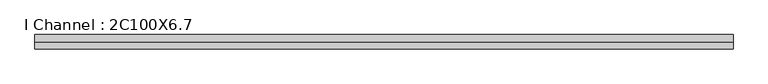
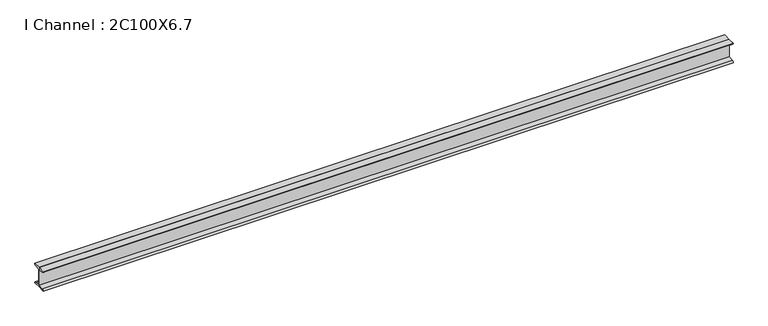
"""IFC4 building model written with IfcOpenShell, lengths in millimetres: beam geometry, I Channel : 2C100X6.7."""

import ifcopenshell
import ifcopenshell.guid

model = None  # the IFC model being written
_history = None  # IfcOwnerHistory: only IFC2X3 demands one
_inside = {}  # id of a spatial element -> (the spatial element, [elements in it])
_under = {}  # id of a project, library or spatial element -> (it, [spatial elements below it])
_declared = {}  # id of a project -> (the project, [libraries it declares])
_typed = {}  # id of a type object -> (the type object, [elements of that type])
_made_of = {}  # id of a material, layer set ... -> (it, [elements and type objects made of it])


def new_model(schema):
    """Start an empty IFC model of exactly this schema.

    Asked for "IFC4X3", IfcOpenShell would pick the latest addendum, in which some entities
    have other attributes; the version numbers below select the first issue.
    IFC2X3 requires an IfcOwnerHistory on every rooted entity: one is made here for all.
    """
    global model, _history
    if schema == "IFC4X3":
        model = ifcopenshell.file(schema_version=(4, 3, 0, 0))
    else:
        model = ifcopenshell.file(schema=schema)
    _inside.clear()
    _under.clear()
    _declared.clear()
    _typed.clear()
    _made_of.clear()
    _history = None
    if model.schema == "IFC2X3":
        org = make("IfcOrganization", Name="unknown")
        user = make(
            "IfcPersonAndOrganization",
            ThePerson=make("IfcPerson", FamilyName="unknown"),
            TheOrganization=org,
        )
        app = make(
            "IfcApplication",
            ApplicationDeveloper=org,
            Version="unknown",
            ApplicationFullName="unknown",
            ApplicationIdentifier="unknown",
        )
        _history = make(
            "IfcOwnerHistory",
            OwningUser=user,
            OwningApplication=app,
            ChangeAction="ADDED",
            CreationDate=0,
        )
    return model


def make(cls, **values):
    """One entity of the class cls with the attributes given. An attribute that is None is left unset."""
    return model.create_entity(
        cls, **{name: value for name, value in values.items() if value is not None}
    )


def rooted(cls, **values):
    """An entity with a GlobalId (a new one), such as an element, a storey or a relation."""
    return make(cls, GlobalId=ifcopenshell.guid.new(), OwnerHistory=_history, **values)


def si_unit(unit_type, name, prefix=None):
    """IfcSIUnit, for example si_unit("LENGTHUNIT", "METRE", prefix="MILLI")."""
    return make("IfcSIUnit", UnitType=unit_type, Prefix=prefix, Name=name)


def assignment(units):
    """IfcUnitAssignment: the units of a project."""
    return None if units is None else make("IfcUnitAssignment", Units=units)


def point(xyz):
    """IfcCartesianPoint."""
    return None if xyz is None else make("IfcCartesianPoint", Coordinates=xyz)


def direction(xyz):
    """IfcDirection."""
    return None if xyz is None else make("IfcDirection", DirectionRatios=xyz)


def frame(location, z_axis=None, x_axis=None):
    """IfcAxis2Placement3D, a coordinate frame: its origin and axes. An axis left out is left unset."""
    return make(
        "IfcAxis2Placement3D",
        Location=point(location),
        Axis=direction(z_axis),
        RefDirection=direction(x_axis),
    )


def frame_2d(location, x_axis=None):
    """IfcAxis2Placement2D, a coordinate frame in the plane: its origin and x axis."""
    return make(
        "IfcAxis2Placement2D", Location=point(location), RefDirection=direction(x_axis)
    )


def origin():
    """The frame at (0, 0, 0) with its axes left unset."""
    return frame((0.0, 0.0, 0.0))


def place(relative_to, where):
    """IfcLocalPlacement: puts the frame where relative to a parent placement (None: the world)."""
    return make(
        "IfcLocalPlacement", PlacementRelTo=relative_to, RelativePlacement=where
    )


def context(
    kind, dimensions, precision=None, world=None, true_north=None, identifier=None
):
    """IfcGeometricRepresentationContext, for example the 3D "Model" context."""
    return make(
        "IfcGeometricRepresentationContext",
        ContextIdentifier=identifier,
        ContextType=kind,
        CoordinateSpaceDimension=dimensions,
        Precision=precision,
        WorldCoordinateSystem=world,
        TrueNorth=true_north,
    )


def project(units=None, contexts=None):
    """IfcProject with its units and contexts."""
    return rooted(
        "IfcProject",
        Name="project",
        RepresentationContexts=contexts,
        UnitsInContext=assignment(units),
    )


def spatial(cls, under=None, at=None, **own):
    """A site, building, storey or space (cls), placed at a placement, below another one or the project."""
    s = rooted(cls, ObjectPlacement=at, **own)
    if under is not None:
        _under.setdefault(under.id(), (under, []))[1].append(s)
    return s


def polyline(points):
    """IfcPolyline through the points."""
    return make("IfcPolyline", Points=[point(p) for p in points])


def circle_curve(where, radius):
    """IfcCircle in the frame where."""
    return make("IfcCircle", Position=where, Radius=radius)


def trimmed(basis, trim1, trim2, sense, master):
    """IfcTrimmedCurve: the piece of a basis curve between two trims."""
    return make(
        "IfcTrimmedCurve",
        BasisCurve=basis,
        Trim1=trim1,
        Trim2=trim2,
        SenseAgreement=sense,
        MasterRepresentation=master,
    )


def segment(curve, same_sense, transition):
    """IfcCompositeCurveSegment."""
    return make(
        "IfcCompositeCurveSegment",
        Transition=transition,
        SameSense=same_sense,
        ParentCurve=curve,
    )


def composite_curve(segments, self_intersect=None):
    """IfcCompositeCurve: segments joined end to end."""
    return make("IfcCompositeCurve", Segments=segments, SelfIntersect=self_intersect)


def outline(outer, holes=None, kind="AREA"):
    """IfcArbitraryClosedProfileDef: a profile drawn as a closed curve; with holes, ...WithVoids."""
    if holes is None:
        return make("IfcArbitraryClosedProfileDef", ProfileType=kind, OuterCurve=outer)
    return make(
        "IfcArbitraryProfileDefWithVoids",
        ProfileType=kind,
        OuterCurve=outer,
        InnerCurves=holes,
    )


def extrude(swept, where, along, depth):
    """IfcExtrudedAreaSolid: the profile swept, set in the frame where, extruded along a direction by depth."""
    return make(
        "IfcExtrudedAreaSolid",
        SweptArea=swept,
        Position=where,
        ExtrudedDirection=direction(along),
        Depth=depth,
    )


def shape(context_of_items, identifier, shape_type, items):
    """IfcShapeRepresentation: the items that make up one representation, for example the "Body"."""
    return make(
        "IfcShapeRepresentation",
        ContextOfItems=context_of_items,
        RepresentationIdentifier=identifier,
        RepresentationType=shape_type,
        Items=items,
    )


def source(mapping_origin, context_of_items, identifier, shape_type, items):
    """IfcRepresentationMap: a shape defined once, which mapped items show again and again."""
    return make(
        "IfcRepresentationMap",
        MappingOrigin=mapping_origin,
        MappedRepresentation=shape(context_of_items, identifier, shape_type, items),
    )


def transform(
    local_origin,
    x_axis=None,
    y_axis=None,
    z_axis=None,
    scale=None,
    scale2=None,
    scale3=None,
    uniform=True,
):
    """IfcCartesianTransformationOperator3D, or its non-uniform kind. x_axis, y_axis, z_axis: its Axis1, 2, 3."""
    if uniform:
        return make(
            "IfcCartesianTransformationOperator3D",
            Axis1=direction(x_axis),
            Axis2=direction(y_axis),
            LocalOrigin=point(local_origin),
            Scale=scale,
            Axis3=direction(z_axis),
        )
    return make(
        "IfcCartesianTransformationOperator3DnonUniform",
        Axis1=direction(x_axis),
        Axis2=direction(y_axis),
        LocalOrigin=point(local_origin),
        Scale=scale,
        Axis3=direction(z_axis),
        Scale2=scale2,
        Scale3=scale3,
    )


def mapped(mapping_source, mapping_target):
    """IfcMappedItem: shows the shape of a source again, moved by a transform."""
    return make(
        "IfcMappedItem", MappingSource=mapping_source, MappingTarget=mapping_target
    )


def made_of(thing, what):
    """Note that an element or type object is made of a material, layer set ...; save() writes the relation."""
    if what is not None:
        _made_of.setdefault(what.id(), (what, []))[1].append(thing)
    return thing


def element(
    cls,
    number,
    at=None,
    inside=None,
    cuts=None,
    type_object=None,
    material=None,
    context=None,
    identifier="Body",
    shape_type=None,
    held_by="IfcProductDefinitionShape",
    body=None,
    shapes=None,
    **own,
):
    """One element of the class cls, such as IfcWall. Its Tag is "e" and its number.

    at: its placement. inside: the storey or other place that contains it. cuts: it is an
    opening in that element (IfcRelVoidsElement). A single representation is given by context,
    identifier, shape_type and body (its items); several are given by shapes. held_by: the class
    of the entity that holds the representations. save() writes the other relations.
    """
    e = rooted(cls, Tag="e%d" % number, ObjectPlacement=at, **own)
    if body is not None:
        shapes = [shape(context, identifier, shape_type, body)]
    if shapes is not None:
        e.Representation = make(held_by, Representations=shapes)
    if inside is not None:
        _inside.setdefault(inside.id(), (inside, []))[1].append(e)
    if cuts is not None:
        rooted(
            "IfcRelVoidsElement", RelatingBuildingElement=cuts, RelatedOpeningElement=e
        )
    if type_object is not None:
        _typed.setdefault(type_object.id(), (type_object, []))[1].append(e)
    return made_of(e, material)


def aggregate(whole, parts):
    """IfcRelAggregates: a whole, such as a stair, and the parts it consists of."""
    return rooted("IfcRelAggregates", RelatingObject=whole, RelatedObjects=parts)


def save(model, path):
    """Write the relations noted so far, then the file.

    IfcRelAggregates (storeys below a building ...), IfcRelContainedInSpatialStructure (elements
    in a storey), IfcRelDefinesByType, IfcRelAssociatesMaterial and IfcRelDeclares: one each for
    every whole, place, type object, material and project.
    """
    for whole, parts in _under.values():
        aggregate(whole, parts)
    for where, things in _inside.values():
        rooted(
            "IfcRelContainedInSpatialStructure",
            RelatedElements=things,
            RelatingStructure=where,
        )
    for kind, things in _typed.values():
        rooted("IfcRelDefinesByType", RelatedObjects=things, RelatingType=kind)
    for what, things in _made_of.values():
        rooted("IfcRelAssociatesMaterial", RelatedObjects=things, RelatingMaterial=what)
    for by, libraries in _declared.values():
        rooted("IfcRelDeclares", RelatingContext=by, RelatedDefinitions=libraries)
    model.write(path)


def i_channel_2c100x6_7_32814a7a(model_context):
    return source(origin(), model_context, "Body", "SweptSolid", [
        extrude(outline(composite_curve([segment(polyline([(0.0, 48.5), (34.0, 48.5)]), True, "CONTINUOUS"), segment(trimmed(circle_curve(frame_2d((26.5, 48.5)), 7.5), [point((34.0, 48.5))], [point((26.5, 41.0))], False, "CARTESIAN"), True, "CONTINUOUS"), segment(polyline([(26.5, 41.0), (3.2, 37.3096425), (3.2, -37.3096425), (26.5, -41.0)]), True, "CONTINUOUS"), segment(trimmed(circle_curve(frame_2d((26.5, -48.5)), 7.5), [point((26.5, -41.0))], [point((34.0, -48.5))], False, "CARTESIAN"), True, "CONTINUOUS"), segment(polyline([(34.0, -48.5), (0.0, -48.5), (0.0, 48.5)]), True, "CONTINUOUS")], self_intersect=False)), frame((-687.3530927, 0.0, 0.0), z_axis=(1.0, 0.0, 0.0), x_axis=(0.0, 1.0, 0.0)), (0.0, 0.0, 1.0), 3260.428),
        extrude(outline(composite_curve([segment(polyline([(0.0, 48.5), (0.0, -48.5), (-34.0, -48.5)]), True, "CONTINUOUS"), segment(trimmed(circle_curve(frame_2d((-26.5, -48.5)), 7.5), [point((-34.0, -48.5))], [point((-26.5, -41.0))], False, "CARTESIAN"), True, "CONTINUOUS"), segment(polyline([(-26.5, -41.0), (-3.2, -37.3096425), (-3.2, 37.3096425), (-26.5, 41.0)]), True, "CONTINUOUS"), segment(trimmed(circle_curve(frame_2d((-26.5, 48.5)), 7.5), [point((-26.5, 41.0))], [point((-34.0, 48.5))], False, "CARTESIAN"), True, "CONTINUOUS"), segment(polyline([(-34.0, 48.5), (0.0, 48.5)]), True, "CONTINUOUS")], self_intersect=False)), frame((-687.3530927, 0.0, 0.0), z_axis=(1.0, 0.0, 0.0), x_axis=(0.0, 1.0, 0.0)), (0.0, 0.0, 1.0), 3260.428),
    ])


if __name__ == "__main__":
    model = new_model("IFC4")
    model_context = context("Model", 3, world=origin())
    ifc_project = project(units=[si_unit("LENGTHUNIT", "METRE", prefix="MILLI")], contexts=[model_context])
    site = spatial("IfcSite", under=ifc_project)
    building = spatial("IfcBuilding", under=site)
    placement = place(None, origin())
    i_channel_2c100x6_7_shape = i_channel_2c100x6_7_32814a7a(model_context)
    element("IfcBeam", 1, ObjectType="I Channel : 2C100X6.7", at=placement, inside=building, context=model_context, shape_type="MappedRepresentation", body=[
        mapped(i_channel_2c100x6_7_shape, transform((0.0, 0.0, 0.0), x_axis=(1.0, 0.0, 0.0), y_axis=(0.0, 1.0, 0.0), z_axis=(0.0, 0.0, 1.0))),
    ])
    save(model, "model.ifc")
